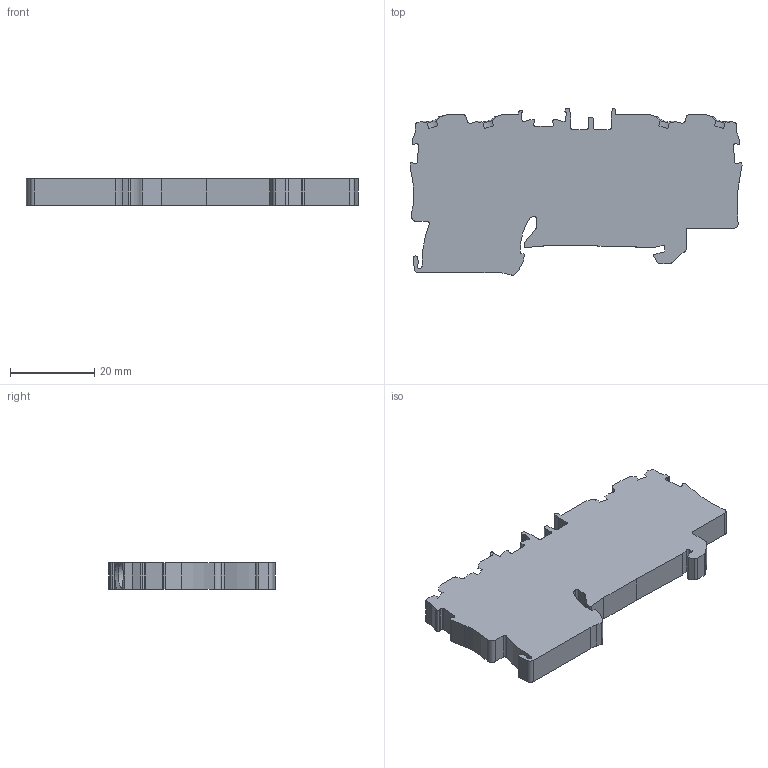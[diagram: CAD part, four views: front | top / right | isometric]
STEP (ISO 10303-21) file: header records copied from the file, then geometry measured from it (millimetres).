
FILE_DESCRIPTION( ( 'STEP AP214' ), ' ' );
FILE_NAME( 'U:/__temp/PartServer_Export/2204-1401.stp', '2018-04-19T12:14:54', ( '' ), ( '' ), ' ', 'PARTsolutions', ' ' );
FILE_SCHEMA( ( 'AUTOMOTIVE_DESIGN { 1 0 10303 214 1 1 1 1 }' ) );
Length unit declared in the file: millimetre
Products named in the file (1): _2204-1401
Bounding box: 78.67 x 39.5 x 6.2 mm (x, y, z)
Volume: 14238.8 mm3; surface area: 7172 mm2
Topology: 1 solids, 1 shells, 373 faces, 1097 edges, 731 vertices
Faces by surface type: plane 208, cylinder 136, torus 16, cone 13
Full cylindrical faces by diameter (mm): 2.1 x1
Entity records: 15786 total; most frequent: CARTESIAN_POINT 2742, ORIENTED_EDGE 2190, DIRECTION 2048, EDGE_CURVE 1095, VERTEX_POINT 731, LINE 702, VECTOR 702, AXIS2_PLACEMENT_3D 673
